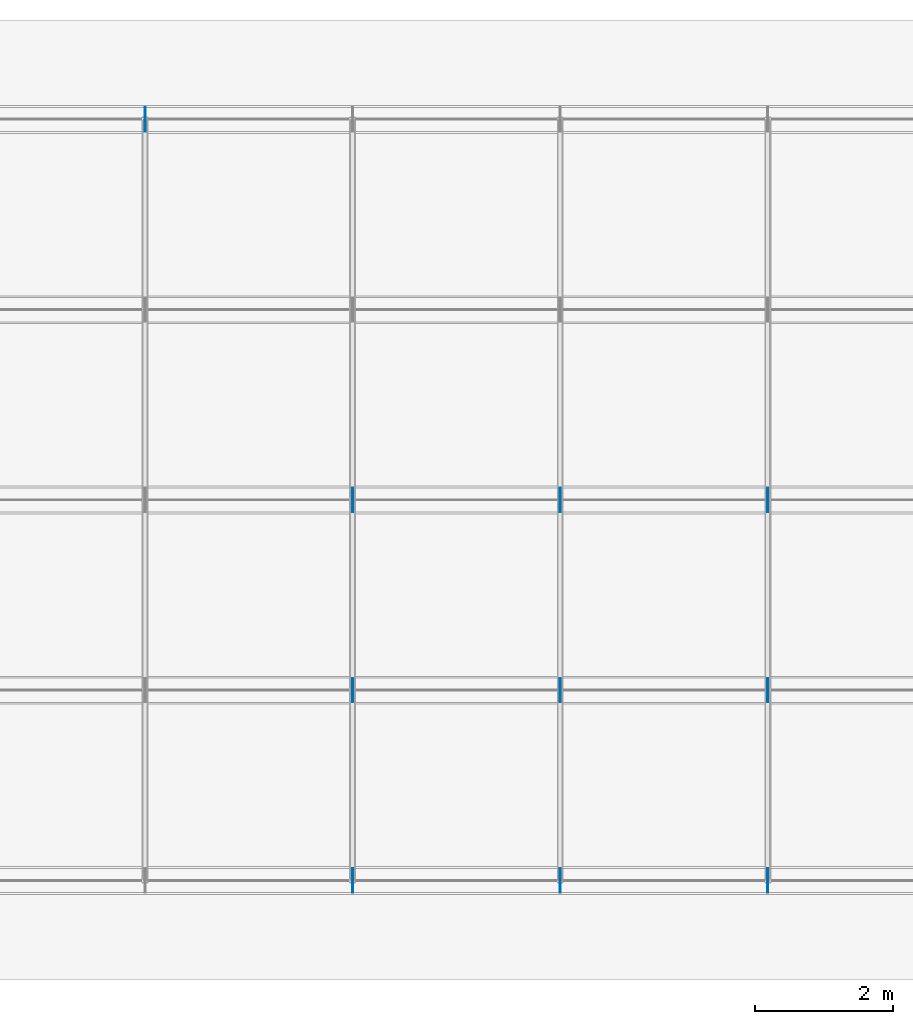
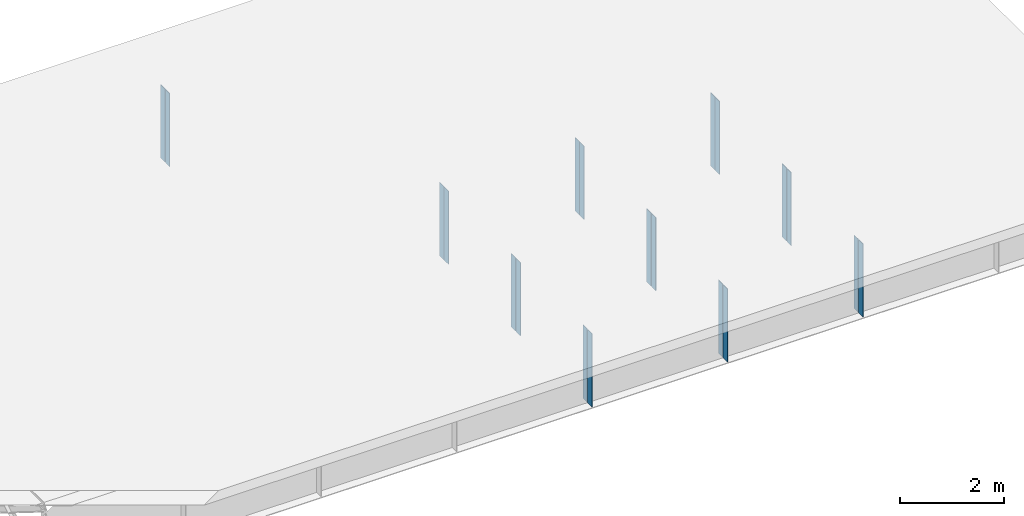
# One storey, part 15 of 17: 20 plates.
"""IFC4 building model written with IfcOpenShell, lengths in metres."""

import ifcopenshell
import ifcopenshell.guid

model = None  # the IFC model being written
_history = None  # IfcOwnerHistory: only IFC2X3 demands one
_inside = {}  # id of a spatial element -> (the spatial element, [elements in it])
_under = {}  # id of a project, library or spatial element -> (it, [spatial elements below it])
_declared = {}  # id of a project -> (the project, [libraries it declares])
_typed = {}  # id of a type object -> (the type object, [elements of that type])
_made_of = {}  # id of a material, layer set ... -> (it, [elements and type objects made of it])


def new_model(schema):
    """Start an empty IFC model of exactly this schema.

    Asked for "IFC4X3", IfcOpenShell would pick the latest addendum, in which some entities
    have other attributes; the version numbers below select the first issue.
    IFC2X3 requires an IfcOwnerHistory on every rooted entity: one is made here for all.
    """
    global model, _history
    if schema == "IFC4X3":
        model = ifcopenshell.file(schema_version=(4, 3, 0, 0))
    else:
        model = ifcopenshell.file(schema=schema)
    _inside.clear()
    _under.clear()
    _declared.clear()
    _typed.clear()
    _made_of.clear()
    _history = None
    if model.schema == "IFC2X3":
        org = make("IfcOrganization", Name="unknown")
        user = make(
            "IfcPersonAndOrganization",
            ThePerson=make("IfcPerson", FamilyName="unknown"),
            TheOrganization=org,
        )
        app = make(
            "IfcApplication",
            ApplicationDeveloper=org,
            Version="unknown",
            ApplicationFullName="unknown",
            ApplicationIdentifier="unknown",
        )
        _history = make(
            "IfcOwnerHistory",
            OwningUser=user,
            OwningApplication=app,
            ChangeAction="ADDED",
            CreationDate=0,
        )
    return model


def make(cls, **values):
    """One entity of the class cls with the attributes given. An attribute that is None is left unset."""
    return model.create_entity(
        cls, **{name: value for name, value in values.items() if value is not None}
    )


def rooted(cls, **values):
    """An entity with a GlobalId (a new one), such as an element, a storey or a relation."""
    return make(cls, GlobalId=ifcopenshell.guid.new(), OwnerHistory=_history, **values)


def si_unit(unit_type, name, prefix=None):
    """IfcSIUnit, for example si_unit("LENGTHUNIT", "METRE", prefix="MILLI")."""
    return make("IfcSIUnit", UnitType=unit_type, Prefix=prefix, Name=name)


def assignment(units):
    """IfcUnitAssignment: the units of a project."""
    return None if units is None else make("IfcUnitAssignment", Units=units)


def point(xyz):
    """IfcCartesianPoint."""
    return None if xyz is None else make("IfcCartesianPoint", Coordinates=xyz)


def direction(xyz):
    """IfcDirection."""
    return None if xyz is None else make("IfcDirection", DirectionRatios=xyz)


def frame(location, z_axis=None, x_axis=None):
    """IfcAxis2Placement3D, a coordinate frame: its origin and axes. An axis left out is left unset."""
    return make(
        "IfcAxis2Placement3D",
        Location=point(location),
        Axis=direction(z_axis),
        RefDirection=direction(x_axis),
    )


def frame_2d(location, x_axis=None):
    """IfcAxis2Placement2D, a coordinate frame in the plane: its origin and x axis."""
    return make(
        "IfcAxis2Placement2D", Location=point(location), RefDirection=direction(x_axis)
    )


def origin():
    """The frame at (0, 0, 0) with its axes left unset."""
    return frame((0.0, 0.0, 0.0))


def origin_with_axes():
    """The frame at (0, 0, 0) with the z axis (0, 0, 1) and the x axis (1, 0, 0) written out."""
    return frame((0.0, 0.0, 0.0), z_axis=(0.0, 0.0, 1.0), x_axis=(1.0, 0.0, 0.0))


def origin_2d_with_axis():
    """The frame at (0, 0) in the plane with the x axis (1, 0) written out."""
    return frame_2d((0.0, 0.0), x_axis=(1.0, 0.0))


def place(relative_to, where):
    """IfcLocalPlacement: puts the frame where relative to a parent placement (None: the world)."""
    return make(
        "IfcLocalPlacement", PlacementRelTo=relative_to, RelativePlacement=where
    )


def context(
    kind, dimensions, precision=None, world=None, true_north=None, identifier=None
):
    """IfcGeometricRepresentationContext, for example the 3D "Model" context."""
    return make(
        "IfcGeometricRepresentationContext",
        ContextIdentifier=identifier,
        ContextType=kind,
        CoordinateSpaceDimension=dimensions,
        Precision=precision,
        WorldCoordinateSystem=world,
        TrueNorth=true_north,
    )


def subcontext(parent, identifier, kind, view, scale=None):
    """IfcGeometricRepresentationSubContext, for example "Body" below "Model"."""
    return make(
        "IfcGeometricRepresentationSubContext",
        ContextIdentifier=identifier,
        ContextType=kind,
        ParentContext=parent,
        TargetScale=scale,
        TargetView=view,
    )


def project(units=None, contexts=None):
    """IfcProject with its units and contexts."""
    return rooted(
        "IfcProject",
        Name="project",
        RepresentationContexts=contexts,
        UnitsInContext=assignment(units),
    )


def spatial(cls, under=None, at=None, **own):
    """A site, building, storey or space (cls), placed at a placement, below another one or the project."""
    s = rooted(cls, ObjectPlacement=at, **own)
    if under is not None:
        _under.setdefault(under.id(), (under, []))[1].append(s)
    return s


def profile(cls, at=None, kind="AREA", **sizes):
    """A parametric profile (cls). Its sizes go by their IFC names, for example OverallWidth=200.0."""
    return make(cls, ProfileType=kind, Position=at, **sizes)


def rectangle(**sizes):
    """IfcRectangleProfileDef."""
    return profile("IfcRectangleProfileDef", **sizes)


def extrude(swept, where, along, depth):
    """IfcExtrudedAreaSolid: the profile swept, set in the frame where, extruded along a direction by depth."""
    return make(
        "IfcExtrudedAreaSolid",
        SweptArea=swept,
        Position=where,
        ExtrudedDirection=direction(along),
        Depth=depth,
    )


def shape(context_of_items, identifier, shape_type, items):
    """IfcShapeRepresentation: the items that make up one representation, for example the "Body"."""
    return make(
        "IfcShapeRepresentation",
        ContextOfItems=context_of_items,
        RepresentationIdentifier=identifier,
        RepresentationType=shape_type,
        Items=items,
    )


def made_of(thing, what):
    """Note that an element or type object is made of a material, layer set ...; save() writes the relation."""
    if what is not None:
        _made_of.setdefault(what.id(), (what, []))[1].append(thing)
    return thing


def element(
    cls,
    number,
    at=None,
    inside=None,
    cuts=None,
    type_object=None,
    material=None,
    context=None,
    identifier="Body",
    shape_type=None,
    held_by="IfcProductDefinitionShape",
    body=None,
    shapes=None,
    **own,
):
    """One element of the class cls, such as IfcWall. Its Tag is "e" and its number.

    at: its placement. inside: the storey or other place that contains it. cuts: it is an
    opening in that element (IfcRelVoidsElement). A single representation is given by context,
    identifier, shape_type and body (its items); several are given by shapes. held_by: the class
    of the entity that holds the representations. save() writes the other relations.
    """
    e = rooted(cls, Tag="e%d" % number, ObjectPlacement=at, **own)
    if body is not None:
        shapes = [shape(context, identifier, shape_type, body)]
    if shapes is not None:
        e.Representation = make(held_by, Representations=shapes)
    if inside is not None:
        _inside.setdefault(inside.id(), (inside, []))[1].append(e)
    if cuts is not None:
        rooted(
            "IfcRelVoidsElement", RelatingBuildingElement=cuts, RelatedOpeningElement=e
        )
    if type_object is not None:
        _typed.setdefault(type_object.id(), (type_object, []))[1].append(e)
    return made_of(e, material)


def aggregate(whole, parts):
    """IfcRelAggregates: a whole, such as a stair, and the parts it consists of."""
    return rooted("IfcRelAggregates", RelatingObject=whole, RelatedObjects=parts)


def save(model, path):
    """Write the relations noted so far, then the file.

    IfcRelAggregates (storeys below a building ...), IfcRelContainedInSpatialStructure (elements
    in a storey), IfcRelDefinesByType, IfcRelAssociatesMaterial and IfcRelDeclares: one each for
    every whole, place, type object, material and project.
    """
    for whole, parts in _under.values():
        aggregate(whole, parts)
    for where, things in _inside.values():
        rooted(
            "IfcRelContainedInSpatialStructure",
            RelatedElements=things,
            RelatingStructure=where,
        )
    for kind, things in _typed.values():
        rooted("IfcRelDefinesByType", RelatedObjects=things, RelatingType=kind)
    for what, things in _made_of.values():
        rooted("IfcRelAssociatesMaterial", RelatedObjects=things, RelatingMaterial=what)
    for by, libraries in _declared.values():
        rooted("IfcRelDeclares", RelatingContext=by, RelatedDefinitions=libraries)
    model.write(path)


model = new_model("IFC4")

# Units and contexts
model_context = context("Model", 3, precision=1e-05, world=origin())
body_context = subcontext(model_context, "Body", "Model", "MODEL_VIEW")
ifc_project = project(units=[si_unit("LENGTHUNIT", "METRE"), si_unit("AREAUNIT", "SQUARE_METRE"), si_unit("VOLUMEUNIT", "CUBIC_METRE"), si_unit("PLANEANGLEUNIT", "RADIAN")], contexts=[model_context])

# Site, building, storey
site_placement = place(None, origin_with_axes())
site = spatial("IfcSite", under=ifc_project, at=site_placement, Name="Default Site")
building_placement = place(site_placement, origin_with_axes())
building = spatial("IfcBuilding", under=site, at=building_placement, Name="Bridge Structure")
storey_placement = place(building_placement, origin_with_axes())
storey = spatial("IfcBuildingStorey", under=building, at=storey_placement, Name="Superstructure")

# Plates
for number, where, z_axis, x_axis, name in (
    (1, (18.0, -5.409, -0.857), (0.0, 0.0, 1.0), (1.0, 0.0, 0.0), "Intermediate Stiffener 1"),
    (2, (18.0, -5.591, -0.857), (0.0, 0.0, 1.0), (1.0, 0.0, 0.0), "Intermediate Stiffener 1"),
    (3, (21.0, -5.409, -0.857), (0.0, 0.0, 1.0), (1.0, 0.0, 0.0), "Intermediate Stiffener 1"),
    (4, (21.0, -5.591, -0.857), (0.0, 0.0, 1.0), (1.0, 0.0, 0.0), "Intermediate Stiffener 1"),
    (5, (24.0, -5.409, -0.857), (0.0, 0.0, 1.0), (1.0, 0.0, 0.0), "Intermediate Stiffener 1"),
    (6, (24.0, -5.591, -0.857), (0.0, 0.0, 1.0), (1.0, 0.0, 0.0), "Intermediate Stiffener 1"),
    (7, (18.0, -2.6590000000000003, -0.857), (0.0, 0.0, 1.0), (1.0, 0.0, 0.0), "Intermediate Stiffener 2"),
    (8, (18.0, -2.841, -0.857), (0.0, 0.0, 1.0), (1.0, 0.0, 0.0), "Intermediate Stiffener 2"),
    (9, (21.0, -2.6590000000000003, -0.857), (0.0, 0.0, 1.0), (1.0, 0.0, 0.0), "Intermediate Stiffener 2"),
    (10, (21.0, -2.841, -0.857), (0.0, 0.0, 1.0), (1.0, 0.0, 0.0), "Intermediate Stiffener 2"),
    (11, (24.0, -2.6590000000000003, -0.857), (0.0, 0.0, 1.0), (1.0, 0.0, 0.0), "Intermediate Stiffener 2"),
    (12, (24.0, -2.841, -0.857), (0.0, 0.0, 1.0), (1.0, 0.0, 0.0), "Intermediate Stiffener 2"),
    (13, (18.0, 0.091, -0.857), (0.0, 0.0, 1.0), (1.0, 0.0, 0.0), "Intermediate Stiffener 3"),
    (14, (18.0, -0.091, -0.857), (0.0, 0.0, 1.0), (1.0, 0.0, 0.0), "Intermediate Stiffener 3"),
    (15, (21.0, 0.091, -0.857), (0.0, 0.0, 1.0), (1.0, 0.0, 0.0), "Intermediate Stiffener 3"),
    (16, (21.0, -0.091, -0.857), (0.0, 0.0, 1.0), (1.0, 0.0, 0.0), "Intermediate Stiffener 3"),
    (17, (24.0, 0.091, -0.857), (0.0, 0.0, 1.0), (1.0, 0.0, 0.0), "Intermediate Stiffener 3"),
    (18, (24.0, -0.091, -0.857), (0.0, 0.0, 1.0), (1.0, 0.0, 0.0), "Intermediate Stiffener 3"),
    (19, (15.0, 5.591, -0.857), (0.0, 0.0, 1.0), (1.0, 0.0, 0.0), "Intermediate Stiffener 5"),
    (20, (15.0, 5.409, -0.857), (0.0, 0.0, 1.0), (1.0, 0.0, 0.0), "Intermediate Stiffener 5"),
):
    element("IfcPlate", number, at=place(storey_placement, frame(where, z_axis=z_axis, x_axis=x_axis)), inside=storey, Name=name, context=body_context, shape_type="SweptSolid", body=[
        extrude(rectangle(XDim=0.012, YDim=0.168, at=origin_2d_with_axis()), origin_with_axes(), (0.0, 0.0, 1.0), 1.714),
    ])

save(model, "model.ifc")
